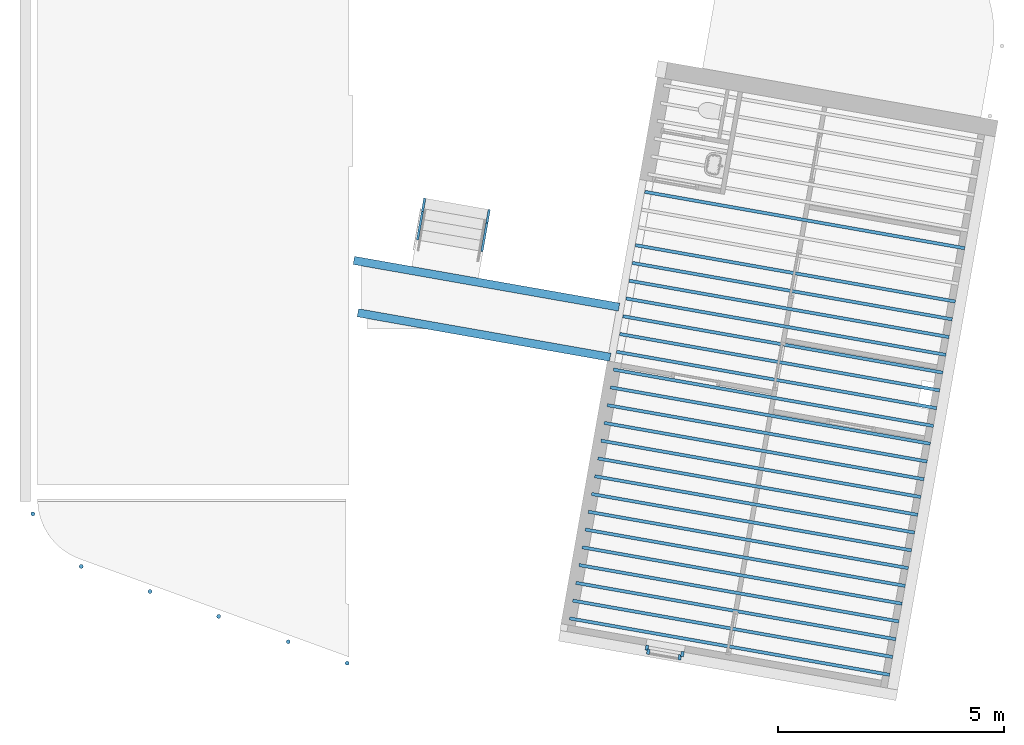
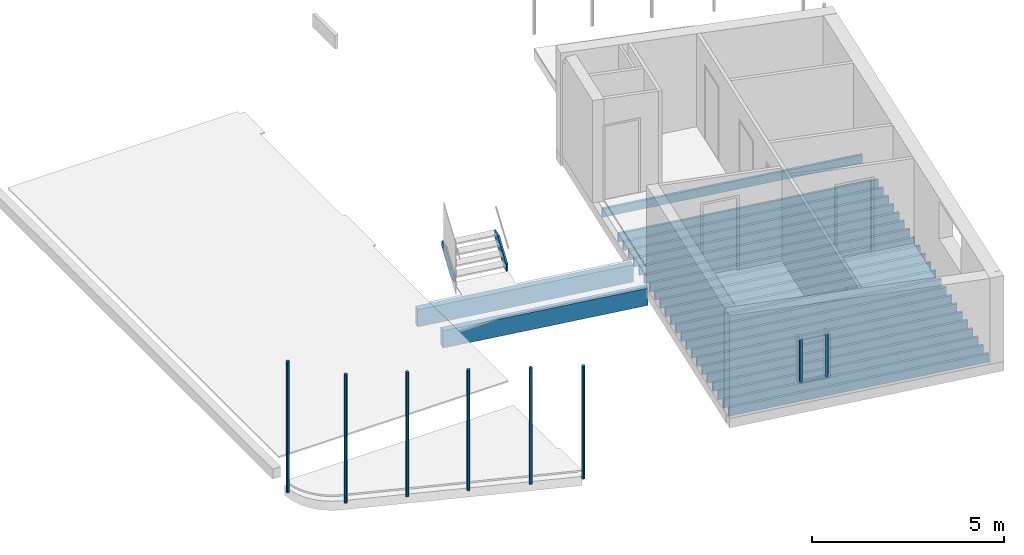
# One storey, part 1 of 7: 25 beams, 12 members, 6 elements without a shape of their own.
"""IFC2X3 building model written with IfcOpenShell, lengths in millimetres."""

from ifc_helpers import new_model, entity, si_unit, converted_unit, derived_unit, direction, frame, frame_2d, origin, origin_2d_with_axis, place, context, subcontext, project, spatial, polyline, rectangle, circle, outline, extrude, source, transform, mapped, material, type_object, type_shapes, element, aggregate, save


model = new_model("IFC2X3")

# Units and contexts
model_context = context("Model", 3, precision=0.01, world=origin(), true_north=direction((6.12303176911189e-17, 1.0)))
body_context = subcontext(model_context, "Body", "Model", "MODEL_VIEW")
ifc_project = project(units=[si_unit("LENGTHUNIT", "METRE", prefix="MILLI"), si_unit("AREAUNIT", "SQUARE_METRE"), si_unit("VOLUMEUNIT", "CUBIC_METRE"), converted_unit("PLANEANGLEUNIT", "DEGREE", entity("IfcRatioMeasure", 0.0174532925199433), si_unit("PLANEANGLEUNIT", "RADIAN"), dimensions=[0, 0, 0, 0, 0, 0, 0]), si_unit("MASSUNIT", "GRAM", prefix="KILO"), derived_unit("MASSDENSITYUNIT", [(si_unit("MASSUNIT", "GRAM", prefix="KILO"), 1), (si_unit("LENGTHUNIT", "METRE"), -3)]), derived_unit("MOMENTOFINERTIAUNIT", [(si_unit("LENGTHUNIT", "METRE"), 4)]), si_unit("TIMEUNIT", "SECOND"), si_unit("FREQUENCYUNIT", "HERTZ"), si_unit("THERMODYNAMICTEMPERATUREUNIT", "DEGREE_CELSIUS"), derived_unit("THERMALTRANSMITTANCEUNIT", [(si_unit("MASSUNIT", "GRAM", prefix="KILO"), 1), (si_unit("THERMODYNAMICTEMPERATUREUNIT", "KELVIN"), -1), (si_unit("TIMEUNIT", "SECOND"), -3)]), derived_unit("VOLUMETRICFLOWRATEUNIT", [(si_unit("LENGTHUNIT", "METRE"), 3), (si_unit("TIMEUNIT", "SECOND"), -1)]), si_unit("ELECTRICCURRENTUNIT", "AMPERE"), si_unit("ELECTRICVOLTAGEUNIT", "VOLT"), si_unit("POWERUNIT", "WATT"), si_unit("FORCEUNIT", "NEWTON", prefix="KILO"), si_unit("ILLUMINANCEUNIT", "LUX"), si_unit("LUMINOUSFLUXUNIT", "LUMEN"), si_unit("LUMINOUSINTENSITYUNIT", "CANDELA"), derived_unit("USERDEFINED", [(si_unit("MASSUNIT", "GRAM", prefix="KILO"), -1), (si_unit("LENGTHUNIT", "METRE"), -2), (si_unit("TIMEUNIT", "SECOND"), 3), (si_unit("LUMINOUSFLUXUNIT", "LUMEN"), 1)]), derived_unit("LINEARVELOCITYUNIT", [(si_unit("LENGTHUNIT", "METRE"), 1), (si_unit("TIMEUNIT", "SECOND"), -1)]), si_unit("PRESSUREUNIT", "PASCAL"), derived_unit("USERDEFINED", [(si_unit("LENGTHUNIT", "METRE"), -2), (si_unit("MASSUNIT", "GRAM", prefix="KILO"), 1), (si_unit("TIMEUNIT", "SECOND"), -2)]), derived_unit("LINEARFORCEUNIT", [(si_unit("MASSUNIT", "GRAM", prefix="KILO"), 1), (si_unit("LENGTHUNIT", "METRE"), 1), (si_unit("TIMEUNIT", "SECOND"), -2), (si_unit("LENGTHUNIT", "METRE"), -1)]), derived_unit("PLANARFORCEUNIT", [(si_unit("MASSUNIT", "GRAM", prefix="KILO"), 1), (si_unit("LENGTHUNIT", "METRE"), 1), (si_unit("TIMEUNIT", "SECOND"), -2), (si_unit("LENGTHUNIT", "METRE"), -2)])], contexts=[model_context])

# Site, building, storey
site_placement = place(None, origin())
site = spatial("IfcSite", under=ifc_project, at=site_placement, Name="<Kadaster Gemeente>;<Kadaster nummer>;<Kadaster sectie>", CompositionType="ELEMENT")
building_placement = place(site_placement, origin())
building = spatial("IfcBuilding", under=site, at=building_placement, Name="JRCZ Middelburg", CompositionType="ELEMENT")
storey_placement = place(building_placement, frame((0.0, 0.0, 3000.0)))
storey = spatial("IfcBuildingStorey", under=building, at=storey_placement, Name="01 eerste verdieping", CompositionType="ELEMENT", Elevation=3000.0)

# Stair, members
stair_placement = place(storey_placement, origin())
stair = element("IfcStair", 1, at=stair_placement, inside=storey, Name="Assembled Stair:Stair", ObjectType="Assembled Stair:RBM_ST_houten trap", ShapeType="STRAIGHT_RUN_STAIR")
ifc_material_1 = material(Name="traphout")
member_type_1 = type_object("IfcMemberType", Name="Stringer:RBM_trapboom hout_300x50", PredefinedType="STRINGER")
member_1_placement = place(stair_placement, origin())
member_1 = element("IfcMember", 2, at=member_1_placement, type_object=member_type_1, material=ifc_material_1, Name="Assembled Stair:Stair:1659339 Stringer 1", ObjectType="Stringer:RBM_trapboom hout_300x50", context=body_context, shape_type="SweptSolid", body=[
    extrude(outline(polyline([(-453.275914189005, -362.454106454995), (-252.303851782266, -362.454106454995), (486.724085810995, 187.885847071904), (486.724085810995, 337.545893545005), (185.407508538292, 337.545893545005), (-453.275914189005, -138.06942125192), (-453.275914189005, -362.454106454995)])), frame((18625.5249894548, 16032.5265603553, 362.454106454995), z_axis=(0.984837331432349, -0.173480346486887, 0.0), x_axis=(0.173480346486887, 0.984837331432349, 0.0)), (0.0, 0.0, 1.0), 50.0000000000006),
])
member_2_placement = place(stair_placement, origin())
member_2 = element("IfcMember", 3, at=member_2_placement, type_object=member_type_1, material=ifc_material_1, Name="Assembled Stair:Stair:1659339 Stringer 2", ObjectType="Stringer:RBM_trapboom hout_300x50", context=body_context, shape_type="SweptSolid", body=[
    extrude(outline(polyline([(-453.275914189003, -362.454106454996), (-252.303851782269, -362.454106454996), (486.724085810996, 187.885847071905), (486.724085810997, 337.545893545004), (185.407508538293, 337.545893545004), (-453.275914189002, -138.069421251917), (-453.275914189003, -362.454106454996)])), frame((20053.5391200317, 15780.9800579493, 362.454106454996), z_axis=(0.98483733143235, -0.17348034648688, 0.0), x_axis=(0.17348034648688, 0.98483733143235, 0.0)), (0.0, 0.0, 1.0), 50.0000000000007),
])
aggregate(stair, [member_1, member_2])

# Beams
ifc_material_2 = material(Name="Softwood, Lumber")
beam_type_1 = type_object("IfcBeamType", Name="M_Dimension Lumber:180x550", PredefinedType="NOTDEFINED")
beam_1_placement = place(storey_placement, frame((23040.0822500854, 14094.8442283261, -30.0), z_axis=(0.0, 0.0, 1.0), x_axis=(-0.984837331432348, 0.173480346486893, 0.0)))
element("IfcBeam", 4, at=beam_1_placement, inside=storey, type_object=beam_type_1, material=ifc_material_2, Name="M_Dimension Lumber:180x550", ObjectType="M_Dimension Lumber:180x550", context=body_context, shape_type="SweptSolid", body=[
    extrude(rectangle(XDim=550.0, YDim=180.000000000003, at=frame_2d((2.55795384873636e-13, 3.76587649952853e-13), x_axis=(1.0, 0.0))), frame((0.0, 0.0, -295.0), z_axis=(1.0, 0.0, 0.0), x_axis=(0.0, 0.0, -1.0)), (0.0, 0.0, 1.0), 5968.59410943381),
])
beam_2_placement = place(storey_placement, frame((22844.234996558, 12983.2451373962, -30.0), z_axis=(0.0, 0.0, 1.0), x_axis=(-0.984807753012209, 0.173648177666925, 0.0)))
element("IfcBeam", 5, at=beam_2_placement, inside=storey, type_object=beam_type_1, material=ifc_material_2, Name="M_Dimension Lumber:180x550", ObjectType="M_Dimension Lumber:180x550", context=body_context, shape_type="SweptSolid", body=[
    extrude(rectangle(XDim=550.0, YDim=180.000000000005, at=frame_2d((2.55795384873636e-13, 0.0), x_axis=(1.0, 0.0))), frame((0.0, 0.0, -295.0), z_axis=(1.0, 0.0, 0.0), x_axis=(0.0, 0.0, -1.0)), (0.0, 0.0, 1.0), 5680.0),
])

# Curtain wall, members
curtain_wall_type_1 = type_object("IfcCurtainWallType", PredefinedType="NOTDEFINED")
curtain_wall_1_placement = place(storey_placement, frame((0.0, 0.0, -3000.0)))
curtain_wall_1 = element("IfcCurtainWall", 6, at=curtain_wall_1_placement, inside=storey, type_object=curtain_wall_type_1)
ifc_material_3 = material(Name="RBM_i2_binnenkozijn")
member_type_2 = type_object("IfcMemberType", Name="Rectangular Mullion:32_CWM_067x114", PredefinedType="MULLION", material=ifc_material_3)
shared_shape_1 = source(origin(), body_context, "Body", "SweptSolid", [
    extrude(rectangle(XDim=67.0000000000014, YDim=114.000000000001, at=frame_2d((-2.03925765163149e-12, -9.16600129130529e-13), x_axis=(1.0, 0.0))), frame((23658.4186214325, 6544.03760339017, 3600.0), z_axis=(0.0, 0.0, 1.0), x_axis=(-0.984807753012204, 0.173648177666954, 0.0)), (0.0, 0.0, 1.0), 1400.0),
])
type_shapes(member_type_2, [shared_shape_1])
member_3_placement = place(storey_placement, frame((0.0, 0.0, -3000.0)))
member_3 = element("IfcMember", 7, at=member_3_placement, type_object=member_type_2, material=ifc_material_3, Name="Rectangular Mullion:32_CWM_067x114", ObjectType="Rectangular Mullion:32_CWM_067x114", context=body_context, shape_type="MappedRepresentation", body=[
    mapped(shared_shape_1, transform((0.0, 0.0, 0.0), scale=1.0)),
])
member_type_3 = type_object("IfcMemberType", Name="Rectangular Mullion:32_CWM_067x114", PredefinedType="MULLION", material=ifc_material_3)
shared_shape_2 = source(origin(), body_context, "Body", "SweptSolid", [
    extrude(rectangle(XDim=66.9999999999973, YDim=113.999999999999, at=frame_2d((2.03925765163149e-12, 9.09494701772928e-13), x_axis=(1.0, 0.0))), frame((24442.3255928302, 6405.81365396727, 3600.0), z_axis=(0.0, 0.0, 1.0), x_axis=(-0.984807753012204, 0.173648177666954, 0.0)), (0.0, 0.0, 1.0), 1400.0),
])
type_shapes(member_type_3, [shared_shape_2])
member_4_placement = place(storey_placement, frame((0.0, 0.0, -3000.0)))
member_4 = element("IfcMember", 8, at=member_4_placement, type_object=member_type_3, material=ifc_material_3, Name="Rectangular Mullion:32_CWM_067x114", ObjectType="Rectangular Mullion:32_CWM_067x114", context=body_context, shape_type="MappedRepresentation", body=[
    mapped(shared_shape_2, transform((0.0, 0.0, 0.0), scale=1.0)),
])
aggregate(curtain_wall_1, [member_3, member_4])

curtain_wall_type_2 = type_object("IfcCurtainWallType", Name="Curtain Wall:NLRS_31_CW_Ontwerpkozijn 067x114 2", PredefinedType="NOTDEFINED")
curtain_wall_2_placement = place(storey_placement, frame((0.0, 0.0, -3000.0)))
curtain_wall_2 = element("IfcCurtainWall", 9, at=curtain_wall_2_placement, inside=storey, type_object=curtain_wall_type_2, Name="Curtain Wall:NLRS_31_CW_Ontwerpkozijn 067x114 2", ObjectType="Curtain Wall:NLRS_31_CW_Ontwerpkozijn 067x114 2")
ifc_material_4 = material(Name="RBM_a_kozijn")
member_type_4 = type_object("IfcMemberType", Name="Rectangular Mullion:31_CWM_067x114", PredefinedType="MULLION", material=ifc_material_4)
shared_shape_3 = source(origin(), body_context, "Body", "SweptSolid", [
    extrude(rectangle(XDim=114.0, YDim=67.0000000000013, at=frame_2d((-5.36459765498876e-13, -9.2370555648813e-14), x_axis=(1.0, 0.0))), frame((24384.754901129, 6332.69993803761, 3600.0), z_axis=(0.0, 0.0, 1.0), x_axis=(0.173648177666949, 0.984807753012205, 0.0)), (0.0, 0.0, 1.0), 1400.0),
])
type_shapes(member_type_4, [shared_shape_3])
member_5_placement = place(storey_placement, frame((0.0, 0.0, -3000.0)))
member_5 = element("IfcMember", 10, at=member_5_placement, type_object=member_type_4, material=ifc_material_4, Name="Rectangular Mullion:31_CWM_067x114", ObjectType="Rectangular Mullion:31_CWM_067x114", context=body_context, shape_type="MappedRepresentation", body=[
    mapped(shared_shape_3, transform((0.0, 0.0, 0.0), scale=1.0)),
])
member_type_5 = type_object("IfcMemberType", Name="Rectangular Mullion:31_CWM_067x114", PredefinedType="MULLION", material=ifc_material_4)
shared_shape_4 = source(origin(), body_context, "Body", "SweptSolid", [
    extrude(rectangle(XDim=113.999999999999, YDim=67.0000000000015, at=frame_2d((5.36459765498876e-13, 9.2370555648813e-14), x_axis=(1.0, 0.0))), frame((23687.5110119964, 6455.64284782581, 3600.0), z_axis=(0.0, 0.0, 1.0), x_axis=(0.173648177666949, 0.984807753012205, 0.0)), (0.0, 0.0, 1.0), 1400.0),
])
type_shapes(member_type_5, [shared_shape_4])
member_6_placement = place(storey_placement, frame((0.0, 0.0, -3000.0)))
member_6 = element("IfcMember", 11, at=member_6_placement, type_object=member_type_5, material=ifc_material_4, Name="Rectangular Mullion:31_CWM_067x114", ObjectType="Rectangular Mullion:31_CWM_067x114", context=body_context, shape_type="MappedRepresentation", body=[
    mapped(shared_shape_4, transform((0.0, 0.0, 0.0), scale=1.0)),
])
aggregate(curtain_wall_2, [member_5, member_6])

curtain_wall_type_3 = type_object("IfcCurtainWallType", PredefinedType="NOTDEFINED")
curtain_wall_3_placement = place(storey_placement, frame((0.0, 0.0, -3000.0)))
curtain_wall_3 = element("IfcCurtainWall", 12, at=curtain_wall_3_placement, inside=storey, type_object=curtain_wall_type_3)
ifc_material_5 = material(Name="Staal")
member_type_6 = type_object("IfcMemberType", Name="Rectangular Mullion:kolom rond 90", PredefinedType="MULLION", material=ifc_material_5)
shared_shape_5 = source(origin(), body_context, "Body", "SweptSolid", [
    extrude(circle(Radius=45.0, at=frame_2d((-1.53562394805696e-24, 5.87805570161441e-12), x_axis=(1.0, 0.0))), frame((-45.0, 0.0, -3590.75960980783), z_axis=(0.0, 0.0, 1.0), x_axis=(-1.0, 0.0, 0.0)), (0.0, 0.0, 1.0), 3590.75960980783),
])
type_shapes(member_type_6, [shared_shape_5])
member_7_placement = place(storey_placement, frame((17056.0, 6186.77811169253, 0.0), z_axis=(0.0, 0.0, -1.0), x_axis=(0.93969262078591, -0.342020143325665, 0.0)))
member_7 = element("IfcMember", 13, at=member_7_placement, type_object=member_type_6, material=ifc_material_5, Name="Rectangular Mullion:kolom rond 90", ObjectType="Rectangular Mullion:kolom rond 90", context=body_context, shape_type="MappedRepresentation", body=[
    mapped(shared_shape_5, transform((0.0, 0.0, 0.0), scale=1.0)),
])
member_type_7 = type_object("IfcMemberType", Name="Rectangular Mullion:kolom rond 90", PredefinedType="MULLION", material=ifc_material_5)
shared_shape_6 = source(origin(), body_context, "Body", "SweptSolid", [
    extrude(circle(Radius=45.0, at=frame_2d((-4.2299497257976e-15, 6.6674242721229e-12), x_axis=(1.0, 0.0))), frame((0.0, 0.0, -4084.09151259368), z_axis=(0.0, 0.0, 1.0), x_axis=(-1.0, 0.0, 0.0)), (0.0, 0.0, 1.0), 4084.09151259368),
])
type_shapes(member_type_7, [shared_shape_6])
member_8_placement = place(storey_placement, frame((11119.4304625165, 8347.51271698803, 0.0), z_axis=(0.0, 0.0, -1.0), x_axis=(0.93969262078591, -0.342020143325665, 0.0)))
member_8 = element("IfcMember", 14, at=member_8_placement, type_object=member_type_7, material=ifc_material_5, Name="Rectangular Mullion:kolom rond 90", ObjectType="Rectangular Mullion:kolom rond 90", context=body_context, shape_type="MappedRepresentation", body=[
    mapped(shared_shape_6, transform((0.0, 0.0, 0.0), scale=1.0)),
])
member_type_8 = type_object("IfcMemberType", Name="Rectangular Mullion:kolom rond 90", PredefinedType="MULLION", material=ifc_material_5)
shared_shape_7 = source(origin(), body_context, "Body", "SweptSolid", [
    extrude(circle(Radius=45.0, at=frame_2d((-4.22994972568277e-15, 6.47181407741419e-12), x_axis=(1.0, 0.0))), frame((0.0, 0.0, -3957.34492882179), z_axis=(0.0, 0.0, 1.0), x_axis=(-1.0, 0.0, 0.0)), (0.0, 0.0, 1.0), 3957.34492882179),
])
type_shapes(member_type_8, [shared_shape_7])
member_9_placement = place(storey_placement, frame((12643.4342909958, 7792.82068651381, 0.0), z_axis=(0.0, 0.0, -1.0), x_axis=(0.93969262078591, -0.342020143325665, 0.0)))
member_9 = element("IfcMember", 15, at=member_9_placement, type_object=member_type_8, material=ifc_material_5, Name="Rectangular Mullion:kolom rond 90", ObjectType="Rectangular Mullion:kolom rond 90", context=body_context, shape_type="MappedRepresentation", body=[
    mapped(shared_shape_7, transform((0.0, 0.0, 0.0), scale=1.0)),
])
member_type_9 = type_object("IfcMemberType", Name="Rectangular Mullion:kolom rond 90", PredefinedType="MULLION", material=ifc_material_5)
shared_shape_8 = source(origin(), body_context, "Body", "SweptSolid", [
    extrude(circle(Radius=45.0, at=frame_2d((-1.74218549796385e-24, 6.26198192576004e-12), x_axis=(1.0, 0.0))), frame((0.0, 0.0, -3830.87130803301), z_axis=(0.0, 0.0, 1.0), x_axis=(-1.0, 0.0, 0.0)), (0.0, 0.0, 1.0), 3830.87130803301),
])
type_shapes(member_type_9, [shared_shape_8])
member_10_placement = place(storey_placement, frame((14165.7897516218, 7238.72861287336, 0.0), z_axis=(0.0, 0.0, -1.0), x_axis=(0.93969262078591, -0.342020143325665, 0.0)))
member_10 = element("IfcMember", 16, at=member_10_placement, type_object=member_type_9, material=ifc_material_5, Name="Rectangular Mullion:kolom rond 90", ObjectType="Rectangular Mullion:kolom rond 90", context=body_context, shape_type="MappedRepresentation", body=[
    mapped(shared_shape_8, transform((0.0, 0.0, 0.0), scale=1.0)),
])
member_type_10 = type_object("IfcMemberType", Name="Rectangular Mullion:kolom rond 90", PredefinedType="MULLION", material=ifc_material_5)
shared_shape_9 = source(origin(), body_context, "Body", "SweptSolid", [
    extrude(circle(Radius=45.0, at=frame_2d((-4.22994972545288e-15, 6.05791183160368e-12), x_axis=(1.0, 0.0))), frame((0.0, 0.0, -3702.83796406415), z_axis=(0.0, 0.0, 1.0), x_axis=(-1.0, 0.0, 0.0)), (0.0, 0.0, 1.0), 3702.83796406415),
])
type_shapes(member_type_10, [shared_shape_9])
member_11_placement = place(storey_placement, frame((15706.9195075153, 6677.80325458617, 0.0), z_axis=(0.0, 0.0, -1.0), x_axis=(0.93969262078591, -0.342020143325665, 0.0)))
member_11 = element("IfcMember", 17, at=member_11_placement, type_object=member_type_10, material=ifc_material_5, Name="Rectangular Mullion:kolom rond 90", ObjectType="Rectangular Mullion:kolom rond 90", context=body_context, shape_type="MappedRepresentation", body=[
    mapped(shared_shape_9, transform((0.0, 0.0, 0.0), scale=1.0)),
])
aggregate(curtain_wall_3, [member_7, member_8, member_9, member_10, member_11])

# Curtain wall, member
curtain_wall_4_placement = place(storey_placement, frame((0.0, 0.0, -3000.0)))
curtain_wall_4 = element("IfcCurtainWall", 18, at=curtain_wall_4_placement, inside=storey, type_object=curtain_wall_type_3)
member_type_11 = type_object("IfcMemberType", Name="Rectangular Mullion:kolom rond 90", PredefinedType="MULLION", material=ifc_material_5)
shared_shape_10 = source(origin(), body_context, "Body", "SweptSolid", [
    extrude(circle(Radius=45.0, at=frame_2d((4.22994972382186e-15, -6.42396064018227e-14), x_axis=(1.0, 0.0))), frame((0.0, 0.0, -4165.72009065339)), (0.0, 0.0, 1.0), 4165.72009065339),
])
type_shapes(member_type_11, [shared_shape_10])
member_12_placement = place(storey_placement, frame((10047.7239754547, 9512.91800740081, 0.0), z_axis=(0.0, 0.0, -1.0), x_axis=(0.224951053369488, -0.974370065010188, 0.0)))
member_12 = element("IfcMember", 19, at=member_12_placement, type_object=member_type_11, material=ifc_material_5, Name="Rectangular Mullion:kolom rond 90", ObjectType="Rectangular Mullion:kolom rond 90", context=body_context, shape_type="MappedRepresentation", body=[
    mapped(shared_shape_10, transform((0.0, 0.0, 0.0), scale=1.0)),
])
aggregate(curtain_wall_4, [member_12])

# Assembly, beams
assembly_placement = place(storey_placement, origin())
assembly = element("IfcElementAssembly", 20, at=assembly_placement, inside=storey, Name="Structural Beam System:houten balkalaag 71 X 271 hoh400", ObjectType="Structural Beam System:houten balkalaag 71 X 271 hoh400", AssemblyPlace="NOTDEFINED", PredefinedType="BEAM_GRID")
beam_type_2 = type_object("IfcBeamType", Name="M_Dimension Lumber:71 x 271", PredefinedType="NOTDEFINED")
beam_3_placement = place(assembly_placement, frame((23610.5525292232, 16649.8799154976, 0.0), z_axis=(0.0, 0.0, 1.0), x_axis=(0.984807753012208, -0.173648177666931, 0.0)))
beam_3 = element("IfcBeam", 21, at=beam_3_placement, type_object=beam_type_2, material=ifc_material_2, Name="M_Dimension Lumber:71 x 271", ObjectType="M_Dimension Lumber:71 x 271", context=body_context, shape_type="SweptSolid", body=[
    extrude(rectangle(XDim=271.0, YDim=71.0000000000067, at=frame_2d((0.0, -1.06581410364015e-12), x_axis=(1.0, 0.0))), frame((0.0, 0.0, -199.500000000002), z_axis=(1.0, 0.0, 0.0), x_axis=(0.0, 0.0, -1.0)), (0.0, 0.0, 1.0), 7199.99999999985),
])
beam_4_placement = place(assembly_placement, frame((23402.1747160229, 15468.110611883, 0.0), z_axis=(0.0, 0.0, 1.0), x_axis=(0.984807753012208, -0.173648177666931, 0.0)))
beam_4 = element("IfcBeam", 22, at=beam_4_placement, type_object=beam_type_2, material=ifc_material_2, Name="M_Dimension Lumber:71 x 271", ObjectType="M_Dimension Lumber:71 x 271", context=body_context, shape_type="SweptSolid", body=[
    extrude(rectangle(XDim=271.0, YDim=71.0000000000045, at=frame_2d((0.0, -1.06581410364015e-12), x_axis=(1.0, 0.0))), frame((0.0, 0.0, -199.500000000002), z_axis=(1.0, 0.0, 0.0), x_axis=(0.0, 0.0, -1.0)), (0.0, 0.0, 1.0), 7199.99999999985),
])
beam_5_placement = place(assembly_placement, frame((23332.7154449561, 15074.1875106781, 0.0), z_axis=(0.0, 0.0, 1.0), x_axis=(0.984807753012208, -0.173648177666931, 0.0)))
beam_5 = element("IfcBeam", 23, at=beam_5_placement, type_object=beam_type_2, material=ifc_material_2, Name="M_Dimension Lumber:71 x 271", ObjectType="M_Dimension Lumber:71 x 271", context=body_context, shape_type="SweptSolid", body=[
    extrude(rectangle(XDim=271.0, YDim=71.0000000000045, at=frame_2d((0.0, -2.1351809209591e-12), x_axis=(1.0, 0.0))), frame((0.0, 0.0, -199.500000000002), z_axis=(1.0, 0.0, 0.0), x_axis=(0.0, 0.0, -1.0)), (0.0, 0.0, 1.0), 7199.99999999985),
])
beam_6_placement = place(assembly_placement, frame((23263.2561738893, 14680.2644094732, 0.0), z_axis=(0.0, 0.0, 1.0), x_axis=(0.984807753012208, -0.173648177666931, 0.0)))
beam_6 = element("IfcBeam", 24, at=beam_6_placement, type_object=beam_type_2, material=ifc_material_2, Name="M_Dimension Lumber:71 x 271", ObjectType="M_Dimension Lumber:71 x 271", context=body_context, shape_type="SweptSolid", body=[
    extrude(rectangle(XDim=271.0, YDim=71.0000000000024, at=frame_2d((0.0, 2.1316282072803e-12), x_axis=(1.0, 0.0))), frame((0.0, 0.0, -199.500000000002), z_axis=(1.0, 0.0, 0.0), x_axis=(0.0, 0.0, -1.0)), (0.0, 0.0, 1.0), 7199.99999999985),
])
beam_7_placement = place(assembly_placement, frame((23193.7969028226, 14286.3413082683, 0.0), z_axis=(0.0, 0.0, 1.0), x_axis=(0.984807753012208, -0.173648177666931, 0.0)))
beam_7 = element("IfcBeam", 25, at=beam_7_placement, type_object=beam_type_2, material=ifc_material_2, Name="M_Dimension Lumber:71 x 271", ObjectType="M_Dimension Lumber:71 x 271", context=body_context, shape_type="SweptSolid", body=[
    extrude(rectangle(XDim=271.0, YDim=71.0000000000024, at=origin_2d_with_axis()), frame((0.0, 0.0, -199.500000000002), z_axis=(1.0, 0.0, 0.0), x_axis=(0.0, 0.0, -1.0)), (0.0, 0.0, 1.0), 7199.99999999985),
])
beam_8_placement = place(assembly_placement, frame((23124.3376317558, 13892.4182070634, 0.0), z_axis=(0.0, 0.0, 1.0), x_axis=(0.984807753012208, -0.173648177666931, 0.0)))
beam_8 = element("IfcBeam", 26, at=beam_8_placement, type_object=beam_type_2, material=ifc_material_2, Name="M_Dimension Lumber:71 x 271", ObjectType="M_Dimension Lumber:71 x 271", context=body_context, shape_type="SweptSolid", body=[
    extrude(rectangle(XDim=271.0, YDim=71.0000000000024, at=frame_2d((0.0, 1.06581410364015e-12), x_axis=(1.0, 0.0))), frame((0.0, 0.0, -199.500000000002), z_axis=(1.0, 0.0, 0.0), x_axis=(0.0, 0.0, -1.0)), (0.0, 0.0, 1.0), 7199.99999999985),
])
beam_9_placement = place(assembly_placement, frame((23054.878360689, 13498.4951058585, 0.0), z_axis=(0.0, 0.0, 1.0), x_axis=(0.984807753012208, -0.173648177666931, 0.0)))
beam_9 = element("IfcBeam", 27, at=beam_9_placement, type_object=beam_type_2, material=ifc_material_2, Name="M_Dimension Lumber:71 x 271", ObjectType="M_Dimension Lumber:71 x 271", context=body_context, shape_type="SweptSolid", body=[
    extrude(rectangle(XDim=271.0, YDim=71.0000000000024, at=frame_2d((0.0, -2.1351809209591e-12), x_axis=(1.0, 0.0))), frame((0.0, 0.0, -199.500000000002), z_axis=(1.0, 0.0, 0.0), x_axis=(0.0, 0.0, -1.0)), (0.0, 0.0, 1.0), 7199.99999999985),
])
beam_10_placement = place(assembly_placement, frame((22985.4190896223, 13104.5720046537, 0.0), z_axis=(0.0, 0.0, 1.0), x_axis=(0.984807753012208, -0.173648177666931, 0.0)))
beam_10 = element("IfcBeam", 28, at=beam_10_placement, type_object=beam_type_2, material=ifc_material_2, Name="M_Dimension Lumber:71 x 271", ObjectType="M_Dimension Lumber:71 x 271", context=body_context, shape_type="SweptSolid", body=[
    extrude(rectangle(XDim=271.0, YDim=71.0000000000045, at=frame_2d((0.0, 1.06581410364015e-12), x_axis=(1.0, 0.0))), frame((0.0, 0.0, -199.500000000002), z_axis=(1.0, 0.0, 0.0), x_axis=(0.0, 0.0, -1.0)), (0.0, 0.0, 1.0), 7199.99999999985),
])
beam_11_placement = place(assembly_placement, frame((22915.9598185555, 12710.6489034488, 0.0), z_axis=(0.0, 0.0, 1.0), x_axis=(0.984807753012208, -0.173648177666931, 0.0)))
beam_11 = element("IfcBeam", 29, at=beam_11_placement, type_object=beam_type_2, material=ifc_material_2, Name="M_Dimension Lumber:71 x 271", ObjectType="M_Dimension Lumber:71 x 271", context=body_context, shape_type="SweptSolid", body=[
    extrude(rectangle(XDim=271.0, YDim=71.0000000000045, at=frame_2d((0.0, 1.06581410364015e-12), x_axis=(1.0, 0.0))), frame((0.0, 0.0, -199.500000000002), z_axis=(1.0, 0.0, 0.0), x_axis=(0.0, 0.0, -1.0)), (0.0, 0.0, 1.0), 7199.99999999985),
])
beam_12_placement = place(assembly_placement, frame((22846.5005474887, 12316.7258022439, 0.0), z_axis=(0.0, 0.0, 1.0), x_axis=(0.984807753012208, -0.173648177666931, 0.0)))
beam_12 = element("IfcBeam", 30, at=beam_12_placement, type_object=beam_type_2, material=ifc_material_2, Name="M_Dimension Lumber:71 x 271", ObjectType="M_Dimension Lumber:71 x 271", context=body_context, shape_type="SweptSolid", body=[
    extrude(rectangle(XDim=271.0, YDim=71.0000000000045, at=origin_2d_with_axis()), frame((0.0, 0.0, -199.500000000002), z_axis=(1.0, 0.0, 0.0), x_axis=(0.0, 0.0, -1.0)), (0.0, 0.0, 1.0), 7199.99999999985),
])
beam_13_placement = place(assembly_placement, frame((22777.041276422, 11922.802701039, 0.0), z_axis=(0.0, 0.0, 1.0), x_axis=(0.984807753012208, -0.173648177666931, 0.0)))
beam_13 = element("IfcBeam", 31, at=beam_13_placement, type_object=beam_type_2, material=ifc_material_2, Name="M_Dimension Lumber:71 x 271", ObjectType="M_Dimension Lumber:71 x 271", context=body_context, shape_type="SweptSolid", body=[
    extrude(rectangle(XDim=271.0, YDim=71.0000000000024, at=origin_2d_with_axis()), frame((0.0, 0.0, -199.500000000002), z_axis=(1.0, 0.0, 0.0), x_axis=(0.0, 0.0, -1.0)), (0.0, 0.0, 1.0), 7199.99999999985),
])
beam_14_placement = place(assembly_placement, frame((22707.5820053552, 11528.8795998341, 0.0), z_axis=(0.0, 0.0, 1.0), x_axis=(0.984807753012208, -0.173648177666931, 0.0)))
beam_14 = element("IfcBeam", 32, at=beam_14_placement, type_object=beam_type_2, material=ifc_material_2, Name="M_Dimension Lumber:71 x 271", ObjectType="M_Dimension Lumber:71 x 271", context=body_context, shape_type="SweptSolid", body=[
    extrude(rectangle(XDim=271.0, YDim=71.0000000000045, at=frame_2d((0.0, 1.06581410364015e-12), x_axis=(1.0, 0.0))), frame((0.0, 0.0, -199.500000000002), z_axis=(1.0, 0.0, 0.0), x_axis=(0.0, 0.0, -1.0)), (0.0, 0.0, 1.0), 7199.99999999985),
])
beam_15_placement = place(assembly_placement, frame((22638.1227342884, 11134.9564986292, 0.0), z_axis=(0.0, 0.0, 1.0), x_axis=(0.984807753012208, -0.173648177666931, 0.0)))
beam_15 = element("IfcBeam", 33, at=beam_15_placement, type_object=beam_type_2, material=ifc_material_2, Name="M_Dimension Lumber:71 x 271", ObjectType="M_Dimension Lumber:71 x 271", context=body_context, shape_type="SweptSolid", body=[
    extrude(rectangle(XDim=271.0, YDim=71.0000000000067, at=origin_2d_with_axis()), frame((0.0, 0.0, -199.500000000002), z_axis=(1.0, 0.0, 0.0), x_axis=(0.0, 0.0, -1.0)), (0.0, 0.0, 1.0), 7199.99999999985),
])
beam_16_placement = place(assembly_placement, frame((22568.6634632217, 10741.0333974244, 0.0), z_axis=(0.0, 0.0, 1.0), x_axis=(0.984807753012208, -0.173648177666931, 0.0)))
beam_16 = element("IfcBeam", 34, at=beam_16_placement, type_object=beam_type_2, material=ifc_material_2, Name="M_Dimension Lumber:71 x 271", ObjectType="M_Dimension Lumber:71 x 271", context=body_context, shape_type="SweptSolid", body=[
    extrude(rectangle(XDim=271.0, YDim=71.0000000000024, at=frame_2d((0.0, 1.06581410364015e-12), x_axis=(1.0, 0.0))), frame((0.0, 0.0, -199.500000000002), z_axis=(1.0, 0.0, 0.0), x_axis=(0.0, 0.0, -1.0)), (0.0, 0.0, 1.0), 7199.99999999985),
])
beam_17_placement = place(assembly_placement, frame((22499.2041921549, 10347.1102962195, 0.0), z_axis=(0.0, 0.0, 1.0), x_axis=(0.984807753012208, -0.173648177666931, 0.0)))
beam_17 = element("IfcBeam", 35, at=beam_17_placement, type_object=beam_type_2, material=ifc_material_2, Name="M_Dimension Lumber:71 x 271", ObjectType="M_Dimension Lumber:71 x 271", context=body_context, shape_type="SweptSolid", body=[
    extrude(rectangle(XDim=271.0, YDim=71.0000000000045, at=frame_2d((0.0, 1.06581410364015e-12), x_axis=(1.0, 0.0))), frame((0.0, 0.0, -199.500000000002), z_axis=(1.0, 0.0, 0.0), x_axis=(0.0, 0.0, -1.0)), (0.0, 0.0, 1.0), 7199.99999999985),
])
beam_18_placement = place(assembly_placement, frame((22429.7449210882, 9953.18719501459, 0.0), z_axis=(0.0, 0.0, 1.0), x_axis=(0.984807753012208, -0.173648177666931, 0.0)))
beam_18 = element("IfcBeam", 36, at=beam_18_placement, type_object=beam_type_2, material=ifc_material_2, Name="M_Dimension Lumber:71 x 271", ObjectType="M_Dimension Lumber:71 x 271", context=body_context, shape_type="SweptSolid", body=[
    extrude(rectangle(XDim=271.0, YDim=71.0000000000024, at=origin_2d_with_axis()), frame((0.0, 0.0, -199.500000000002), z_axis=(1.0, 0.0, 0.0), x_axis=(0.0, 0.0, -1.0)), (0.0, 0.0, 1.0), 7199.99999999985),
])
beam_19_placement = place(assembly_placement, frame((22360.2856500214, 9559.2640938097, 0.0), z_axis=(0.0, 0.0, 1.0), x_axis=(0.984807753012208, -0.173648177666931, 0.0)))
beam_19 = element("IfcBeam", 37, at=beam_19_placement, type_object=beam_type_2, material=ifc_material_2, Name="M_Dimension Lumber:71 x 271", ObjectType="M_Dimension Lumber:71 x 271", context=body_context, shape_type="SweptSolid", body=[
    extrude(rectangle(XDim=271.0, YDim=71.0000000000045, at=frame_2d((0.0, 1.06581410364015e-12), x_axis=(1.0, 0.0))), frame((0.0, 0.0, -199.500000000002), z_axis=(1.0, 0.0, 0.0), x_axis=(0.0, 0.0, -1.0)), (0.0, 0.0, 1.0), 7199.99999999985),
])
beam_20_placement = place(assembly_placement, frame((22290.8263789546, 9165.34099260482, 0.0), z_axis=(0.0, 0.0, 1.0), x_axis=(0.984807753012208, -0.173648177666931, 0.0)))
beam_20 = element("IfcBeam", 38, at=beam_20_placement, type_object=beam_type_2, material=ifc_material_2, Name="M_Dimension Lumber:71 x 271", ObjectType="M_Dimension Lumber:71 x 271", context=body_context, shape_type="SweptSolid", body=[
    extrude(rectangle(XDim=271.0, YDim=71.0000000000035, at=frame_2d((0.0, -1.06581410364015e-12), x_axis=(1.0, 0.0))), frame((0.0, 0.0, -199.500000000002), z_axis=(1.0, 0.0, 0.0), x_axis=(0.0, 0.0, -1.0)), (0.0, 0.0, 1.0), 7199.99999999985),
])
beam_21_placement = place(assembly_placement, frame((22221.3671078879, 8771.41789139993, 0.0), z_axis=(0.0, 0.0, 1.0), x_axis=(0.984807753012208, -0.173648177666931, 0.0)))
beam_21 = element("IfcBeam", 39, at=beam_21_placement, type_object=beam_type_2, material=ifc_material_2, Name="M_Dimension Lumber:71 x 271", ObjectType="M_Dimension Lumber:71 x 271", context=body_context, shape_type="SweptSolid", body=[
    extrude(rectangle(XDim=271.0, YDim=71.0000000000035, at=frame_2d((0.0, 5.32907051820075e-13), x_axis=(1.0, 0.0))), frame((0.0, 0.0, -199.500000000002), z_axis=(1.0, 0.0, 0.0), x_axis=(0.0, 0.0, -1.0)), (0.0, 0.0, 1.0), 7199.99999999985),
])
beam_22_placement = place(assembly_placement, frame((22151.9078368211, 8377.49479019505, 0.0), z_axis=(0.0, 0.0, 1.0), x_axis=(0.984807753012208, -0.173648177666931, 0.0)))
beam_22 = element("IfcBeam", 40, at=beam_22_placement, type_object=beam_type_2, material=ifc_material_2, Name="M_Dimension Lumber:71 x 271", ObjectType="M_Dimension Lumber:71 x 271", context=body_context, shape_type="SweptSolid", body=[
    extrude(rectangle(XDim=271.0, YDim=71.0000000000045, at=frame_2d((0.0, -5.32907051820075e-13), x_axis=(1.0, 0.0))), frame((0.0, 0.0, -199.500000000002), z_axis=(1.0, 0.0, 0.0), x_axis=(0.0, 0.0, -1.0)), (0.0, 0.0, 1.0), 7199.99999999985),
])
beam_23_placement = place(assembly_placement, frame((22082.4485657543, 7983.57168899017, 0.0), z_axis=(0.0, 0.0, 1.0), x_axis=(0.984807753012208, -0.173648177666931, 0.0)))
beam_23 = element("IfcBeam", 41, at=beam_23_placement, type_object=beam_type_2, material=ifc_material_2, Name="M_Dimension Lumber:71 x 271", ObjectType="M_Dimension Lumber:71 x 271", context=body_context, shape_type="SweptSolid", body=[
    extrude(rectangle(XDim=271.0, YDim=71.0000000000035, at=frame_2d((0.0, -1.06581410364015e-12), x_axis=(1.0, 0.0))), frame((0.0, 0.0, -199.500000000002), z_axis=(1.0, 0.0, 0.0), x_axis=(0.0, 0.0, -1.0)), (0.0, 0.0, 1.0), 7199.99999999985),
])
beam_24_placement = place(assembly_placement, frame((22012.9892946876, 7589.64858778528, 0.0), z_axis=(0.0, 0.0, 1.0), x_axis=(0.984807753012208, -0.173648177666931, 0.0)))
beam_24 = element("IfcBeam", 42, at=beam_24_placement, type_object=beam_type_2, material=ifc_material_2, Name="M_Dimension Lumber:71 x 271", ObjectType="M_Dimension Lumber:71 x 271", context=body_context, shape_type="SweptSolid", body=[
    extrude(rectangle(XDim=271.0, YDim=71.0000000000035, at=frame_2d((0.0, 1.06581410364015e-12), x_axis=(1.0, 0.0))), frame((0.0, 0.0, -199.500000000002), z_axis=(1.0, 0.0, 0.0), x_axis=(0.0, 0.0, -1.0)), (0.0, 0.0, 1.0), 7199.99999999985),
])
beam_25_placement = place(assembly_placement, frame((21943.5300236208, 7195.7254865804, 0.0), z_axis=(0.0, 0.0, 1.0), x_axis=(0.984807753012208, -0.173648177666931, 0.0)))
beam_25 = element("IfcBeam", 43, at=beam_25_placement, type_object=beam_type_2, material=ifc_material_2, Name="M_Dimension Lumber:71 x 271", ObjectType="M_Dimension Lumber:71 x 271", context=body_context, shape_type="SweptSolid", body=[
    extrude(rectangle(XDim=271.0, YDim=71.0000000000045, at=origin_2d_with_axis()), frame((0.0, 0.0, -199.500000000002), z_axis=(1.0, 0.0, 0.0), x_axis=(0.0, 0.0, -1.0)), (0.0, 0.0, 1.0), 7199.99999999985),
])
aggregate(assembly, [beam_3, beam_4, beam_5, beam_6, beam_7, beam_8, beam_9, beam_10, beam_11, beam_12, beam_13, beam_14, beam_15, beam_16, beam_17, beam_18, beam_19, beam_20, beam_21, beam_22, beam_23, beam_24, beam_25])

save(model, "model.ifc")
